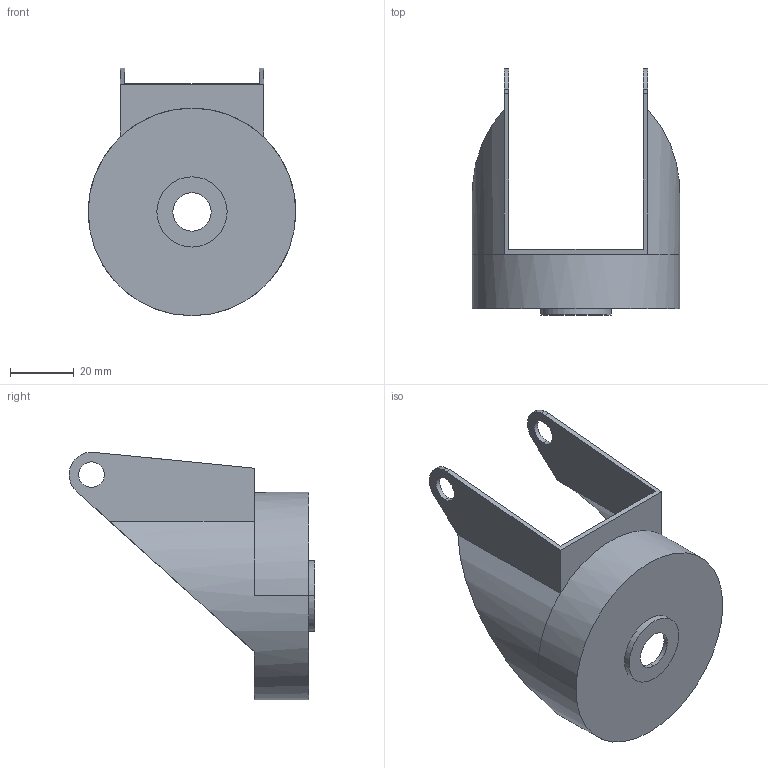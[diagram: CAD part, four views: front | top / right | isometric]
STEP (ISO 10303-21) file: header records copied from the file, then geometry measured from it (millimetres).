
FILE_DESCRIPTION((''),'2;1');
FILE_NAME('RUP080_2','2002-12-27T',('Lipro doo'),('Lipro d.o.o.'),'PRO/ENGINEER BY PARAMETRIC TECHNOLOGY CORPORATION, 2001150','PRO/ENGINEER BY PARAMETRIC TECHNOLOGY CORPORATION, 2001150','');
FILE_SCHEMA(('CONFIG_CONTROL_DESIGN'));
Length unit declared in the file: millimetre
Products named in the file (1): RUP080_2
Bounding box: 65 x 77.03 x 77.5 mm (x, y, z)
Volume: 16474.2 mm3; surface area: 22705 mm2
Topology: 1 solids, 1 shells, 32 faces, 85 edges, 57 vertices
Faces by surface type: plane 16, cylinder 16
Entity records: 1084 total; most frequent: CARTESIAN_POINT 208, DIRECTION 178, ORIENTED_EDGE 170, EDGE_CURVE 85, AXIS2_PLACEMENT_3D 67, VERTEX_POINT 57, VECTOR 44, LINE 44
